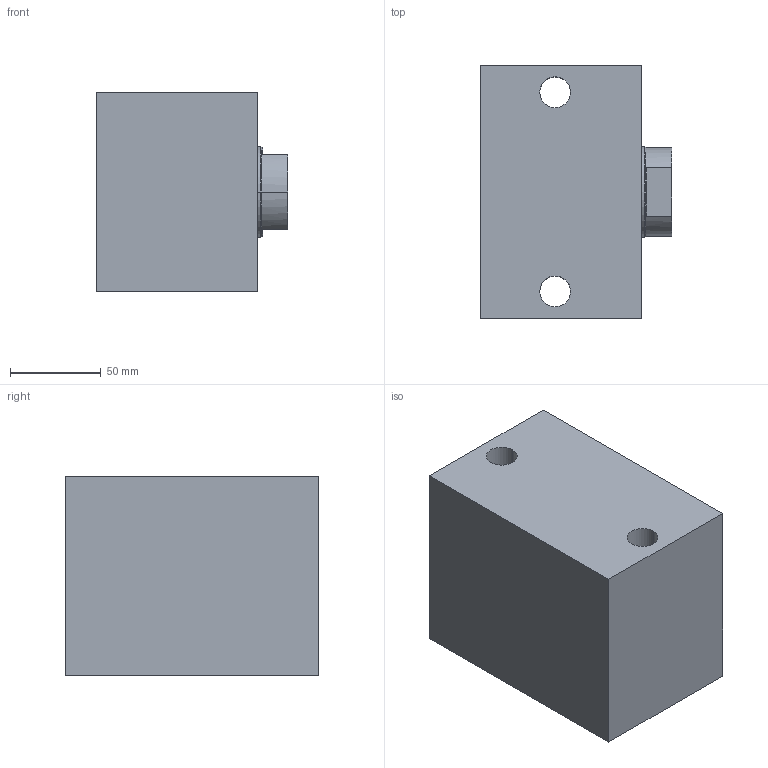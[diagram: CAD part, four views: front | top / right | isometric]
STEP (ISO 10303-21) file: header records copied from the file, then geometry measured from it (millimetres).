
FILE_DESCRIPTION((''),'2;1');
FILE_NAME('BD-180252_ASM','2016-06-02T',('ed.haase'),(''),'CREO PARAMETRIC BY PTC INC, 2015290','CREO PARAMETRIC BY PTC INC, 2015290','');
FILE_SCHEMA(('CONFIG_CONTROL_DESIGN'));
Length unit declared in the file: millimetre
Products named in the file (4): BD-BASE; BD-PLUNGER; BD-RING; BD-180252_ASM
Assembly tree (3 placements, depth 2):
  BD-180252_ASM
    BD-BASE
    BD-PLUNGER
    BD-RING
Bounding box: 106 x 140 x 110 mm (x, y, z)
Volume: 1224460.9 mm3; surface area: 178663 mm2
Topology: 3 solids, 6 shells, 152 faces, 324 edges, 183 vertices
Faces by surface type: cylinder 52, torus 42, cone 36, plane 22
Entity records: 4206 total; most frequent: DIRECTION 858, CARTESIAN_POINT 666, ORIENTED_EDGE 624, AXIS2_PLACEMENT_3D 375, EDGE_CURVE 318, CIRCLE 210, VERTEX_POINT 183, EDGE_LOOP 169
